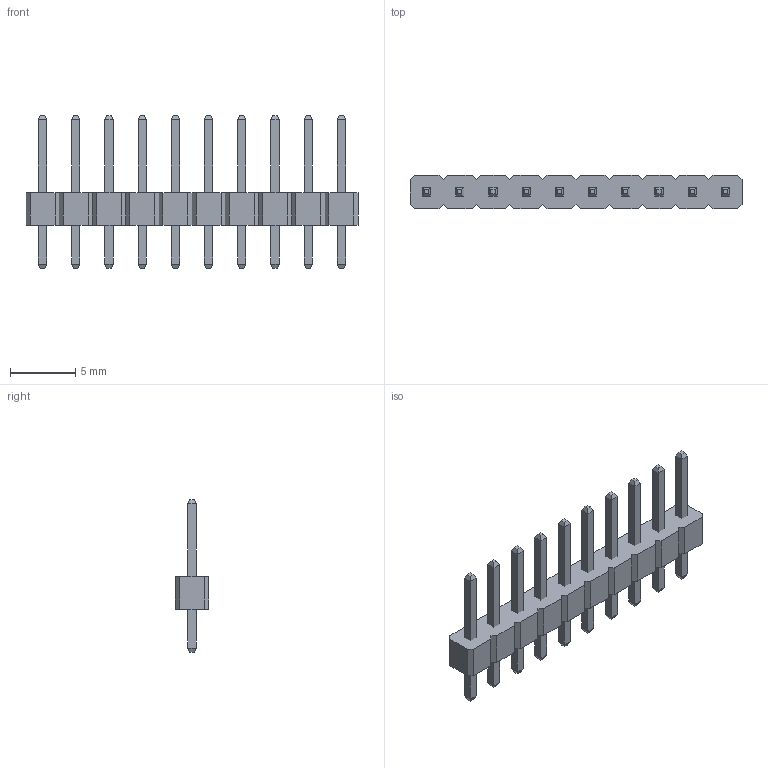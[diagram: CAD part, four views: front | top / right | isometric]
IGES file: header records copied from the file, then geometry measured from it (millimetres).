
Start section: Data from Parasolid IGES Translator 23.1.110, Copyright(c) 2006 Siemens PLM Software. All Rights Reserved.
Global section: file name: 5f3dd5a8933f190f816bcb01.iges; native system: By Siemens PLM Incorporated; preprocessor: XPlus GENERIC/IGES 23.1.110; author: Noname; organization: Noname; date: 20200820.014512; units: metre
Bounding box: 25.4 x 2.54 x 11.68 mm (x, y, z)
Surface area: 581.3 mm2 (no closed solid volume)
Topology: 0 solids, 0 shells, 264 faces, 1172 edges, 1172 vertices
Faces by surface type: extrusion 264
